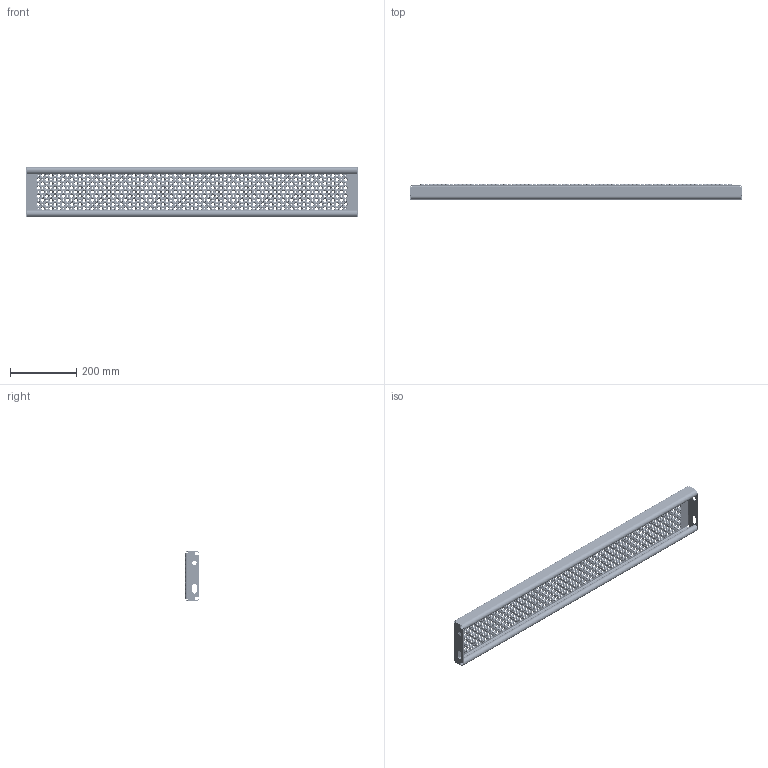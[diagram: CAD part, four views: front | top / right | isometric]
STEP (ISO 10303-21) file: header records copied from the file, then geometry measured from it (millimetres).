
FILE_DESCRIPTION (( 'STEP AP214' ), '1' );
FILE_NAME ('OPTIMO-Tread-Achil-O2-1000x150x45x2-st240-F100020100.STEP', '2021-03-15T08:53:14', ( '' ), ( '' ), 'SwSTEP 2.0', 'SolidWorks 2021', '' );
FILE_SCHEMA (( 'AUTOMOTIVE_DESIGN' ));
Length unit declared in the file: millimetre
Products named in the file (1): OPTIMO-Tread-Achil-O2-1000x150x45x2-st240-F100020100
Bounding box: 1000 x 45 x 150 mm (x, y, z)
Volume: 632043.3 mm3; surface area: 678167.8 mm2
Topology: 1 solids, 1 shells, 8332 faces, 21650 edges, 13320 vertices
Faces by surface type: cone 4950, torus 3300, plane 38, cylinder 36, bspline 8
Entity records: 265264 total; most frequent: DIRECTION 54824, CARTESIAN_POINT 43895, ORIENTED_EDGE 43300, AXIS2_PLACEMENT_3D 24881, EDGE_CURVE 21650, CIRCLE 16556, VERTEX_POINT 13320, EDGE_LOOP 9990
